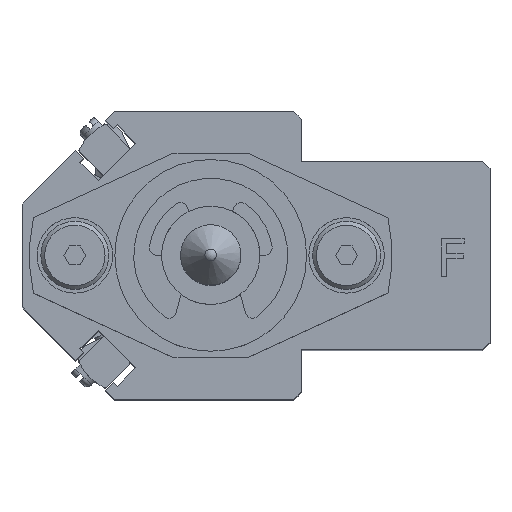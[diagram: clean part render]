
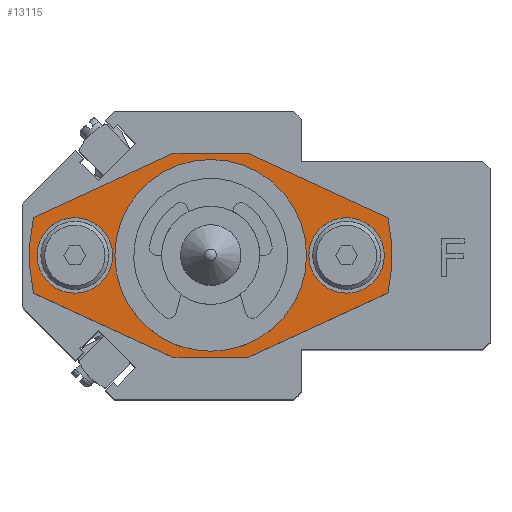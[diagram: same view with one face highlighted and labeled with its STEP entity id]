
A CAD part, top view. The second image highlights one B-rep face of the part: STEP entity #13115.
In plain terms, the highlighted planar face has unit normal (0, 0, 1).
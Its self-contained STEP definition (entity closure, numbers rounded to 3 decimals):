
#364=FACE_BOUND('',#4801,.T.);
#365=FACE_BOUND('',#4802,.T.);
#366=FACE_BOUND('',#4803,.T.);
#1539=LINE('',#21597,#2920);
#1546=LINE('',#21614,#2927);
#1547=LINE('',#21617,#2928);
#1548=LINE('',#21618,#2929);
#1549=LINE('',#21620,#2930);
#1550=LINE('',#21621,#2931);
#2920=VECTOR('',#17498,10.);
#2927=VECTOR('',#17513,10.);
#2928=VECTOR('',#17516,10.);
#2929=VECTOR('',#17517,10.);
#2930=VECTOR('',#17518,10.);
#2931=VECTOR('',#17519,10.);
#3401=CIRCLE('',#14381,10.5);
#3402=CIRCLE('',#14382,10.5);
#3409=CIRCLE('',#14393,24.);
#3411=CIRCLE('',#14396,24.);
#3414=CIRCLE('',#14403,5.);
#3415=CIRCLE('',#14404,5.);
#3416=CIRCLE('',#14405,5.);
#3417=CIRCLE('',#14406,5.);
#4105=FACE_OUTER_BOUND('',#4800,.T.);
#4800=EDGE_LOOP('',(#11020,#11021,#11022,#11023,#11024,#11025,#11026,#11027));
#4801=EDGE_LOOP('',(#11028,#11029));
#4802=EDGE_LOOP('',(#11030,#11031));
#4803=EDGE_LOOP('',(#11032,#11033));
#5966=VERTEX_POINT('',#21555);
#5967=VERTEX_POINT('',#21557);
#5975=VERTEX_POINT('',#21578);
#5976=VERTEX_POINT('',#21580);
#5979=VERTEX_POINT('',#21587);
#5980=VERTEX_POINT('',#21589);
#5982=VERTEX_POINT('',#21595);
#5988=VERTEX_POINT('',#21612);
#5989=VERTEX_POINT('',#21616);
#5990=VERTEX_POINT('',#21619);
#5991=VERTEX_POINT('',#21622);
#5992=VERTEX_POINT('',#21623);
#5993=VERTEX_POINT('',#21626);
#5994=VERTEX_POINT('',#21627);
#7705=EDGE_CURVE('',#5967,#5966,#3401,.T.);
#7706=EDGE_CURVE('',#5966,#5967,#3402,.T.);
#7715=EDGE_CURVE('',#5976,#5975,#3409,.T.);
#7719=EDGE_CURVE('',#5980,#5979,#3411,.T.);
#7723=EDGE_CURVE('',#5975,#5982,#1539,.T.);
#7732=EDGE_CURVE('',#5979,#5988,#1546,.T.);
#7733=EDGE_CURVE('',#5982,#5989,#1547,.T.);
#7734=EDGE_CURVE('',#5989,#5980,#1548,.T.);
#7735=EDGE_CURVE('',#5988,#5990,#1549,.T.);
#7736=EDGE_CURVE('',#5990,#5976,#1550,.T.);
#7737=EDGE_CURVE('',#5991,#5992,#3414,.T.);
#7738=EDGE_CURVE('',#5992,#5991,#3415,.T.);
#7739=EDGE_CURVE('',#5993,#5994,#3416,.T.);
#7740=EDGE_CURVE('',#5994,#5993,#3417,.T.);
#11020=ORIENTED_EDGE('',*,*,#7715,.T.);
#11021=ORIENTED_EDGE('',*,*,#7723,.T.);
#11022=ORIENTED_EDGE('',*,*,#7733,.T.);
#11023=ORIENTED_EDGE('',*,*,#7734,.T.);
#11024=ORIENTED_EDGE('',*,*,#7719,.T.);
#11025=ORIENTED_EDGE('',*,*,#7732,.T.);
#11026=ORIENTED_EDGE('',*,*,#7735,.T.);
#11027=ORIENTED_EDGE('',*,*,#7736,.T.);
#11028=ORIENTED_EDGE('',*,*,#7705,.T.);
#11029=ORIENTED_EDGE('',*,*,#7706,.T.);
#11030=ORIENTED_EDGE('',*,*,#7737,.T.);
#11031=ORIENTED_EDGE('',*,*,#7738,.T.);
#11032=ORIENTED_EDGE('',*,*,#7739,.T.);
#11033=ORIENTED_EDGE('',*,*,#7740,.T.);
#12313=PLANE('',#14402);
#13115=ADVANCED_FACE('',(#4105,#364,#365,#366),#12313,.T.);
#14381=AXIS2_PLACEMENT_3D('',#21558,#17457,#17458);
#14382=AXIS2_PLACEMENT_3D('',#21559,#17459,#17460);
#14393=AXIS2_PLACEMENT_3D('',#21581,#17483,#17484);
#14396=AXIS2_PLACEMENT_3D('',#21590,#17491,#17492);
#14402=AXIS2_PLACEMENT_3D('',#21615,#17514,#17515);
#14403=AXIS2_PLACEMENT_3D('',#21624,#17520,#17521);
#14404=AXIS2_PLACEMENT_3D('',#21625,#17522,#17523);
#14405=AXIS2_PLACEMENT_3D('',#21628,#17524,#17525);
#14406=AXIS2_PLACEMENT_3D('',#21629,#17526,#17527);
#17457=DIRECTION('center_axis',(0.,0.,-1.));
#17458=DIRECTION('ref_axis',(1.,0.,0.));
#17459=DIRECTION('center_axis',(0.,0.,-1.));
#17460=DIRECTION('ref_axis',(1.,0.,0.));
#17483=DIRECTION('center_axis',(0.,0.,1.));
#17484=DIRECTION('ref_axis',(0.978,-0.208,0.));
#17491=DIRECTION('center_axis',(0.,0.,1.));
#17492=DIRECTION('ref_axis',(-0.978,0.208,0.));
#17498=DIRECTION('',(0.908,-0.418,0.));
#17513=DIRECTION('',(-0.908,0.418,0.));
#17514=DIRECTION('center_axis',(0.,0.,1.));
#17515=DIRECTION('ref_axis',(1.,0.,0.));
#17516=DIRECTION('',(1.,0.,0.));
#17517=DIRECTION('',(0.908,0.418,0.));
#17518=DIRECTION('',(-1.,0.,0.));
#17519=DIRECTION('',(-0.908,-0.418,0.));
#17520=DIRECTION('center_axis',(0.,0.,-1.));
#17521=DIRECTION('ref_axis',(1.,0.,0.));
#17522=DIRECTION('center_axis',(0.,0.,-1.));
#17523=DIRECTION('ref_axis',(1.,0.,0.));
#17524=DIRECTION('center_axis',(0.,0.,-1.));
#17525=DIRECTION('ref_axis',(1.,0.,0.));
#17526=DIRECTION('center_axis',(0.,0.,-1.));
#17527=DIRECTION('ref_axis',(1.,0.,0.));
#21555=CARTESIAN_POINT('',(-10.5,0.,6.));
#21557=CARTESIAN_POINT('',(10.5,0.,6.));
#21558=CARTESIAN_POINT('Origin',(0.,0.,6.));
#21559=CARTESIAN_POINT('Origin',(0.,0.,6.));
#21578=CARTESIAN_POINT('',(-23.473,-5.001,6.));
#21580=CARTESIAN_POINT('',(-23.473,5.001,6.));
#21581=CARTESIAN_POINT('Origin',(0.,0.,6.));
#21587=CARTESIAN_POINT('',(23.473,5.001,6.));
#21589=CARTESIAN_POINT('',(23.473,-5.001,6.));
#21590=CARTESIAN_POINT('Origin',(0.,0.,6.));
#21595=CARTESIAN_POINT('',(-5.,-13.5,6.));
#21597=CARTESIAN_POINT('',(-15.7,-8.578,6.));
#21612=CARTESIAN_POINT('',(5.,13.5,6.));
#21614=CARTESIAN_POINT('',(15.7,8.578,6.));
#21615=CARTESIAN_POINT('Origin',(0.,0.,6.));
#21616=CARTESIAN_POINT('',(5.,-13.5,6.));
#21617=CARTESIAN_POINT('',(25.4,-13.5,6.));
#21618=CARTESIAN_POINT('',(15.7,-8.578,6.));
#21619=CARTESIAN_POINT('',(-5.,13.5,6.));
#21620=CARTESIAN_POINT('',(-25.4,13.5,6.));
#21621=CARTESIAN_POINT('',(-15.7,8.578,6.));
#21622=CARTESIAN_POINT('',(-13.,0.,6.));
#21623=CARTESIAN_POINT('',(-23.,0.,6.));
#21624=CARTESIAN_POINT('Origin',(-18.,0.,6.));
#21625=CARTESIAN_POINT('Origin',(-18.,0.,6.));
#21626=CARTESIAN_POINT('',(23.,0.,6.));
#21627=CARTESIAN_POINT('',(13.,0.,6.));
#21628=CARTESIAN_POINT('Origin',(18.,0.,6.));
#21629=CARTESIAN_POINT('Origin',(18.,0.,6.));
